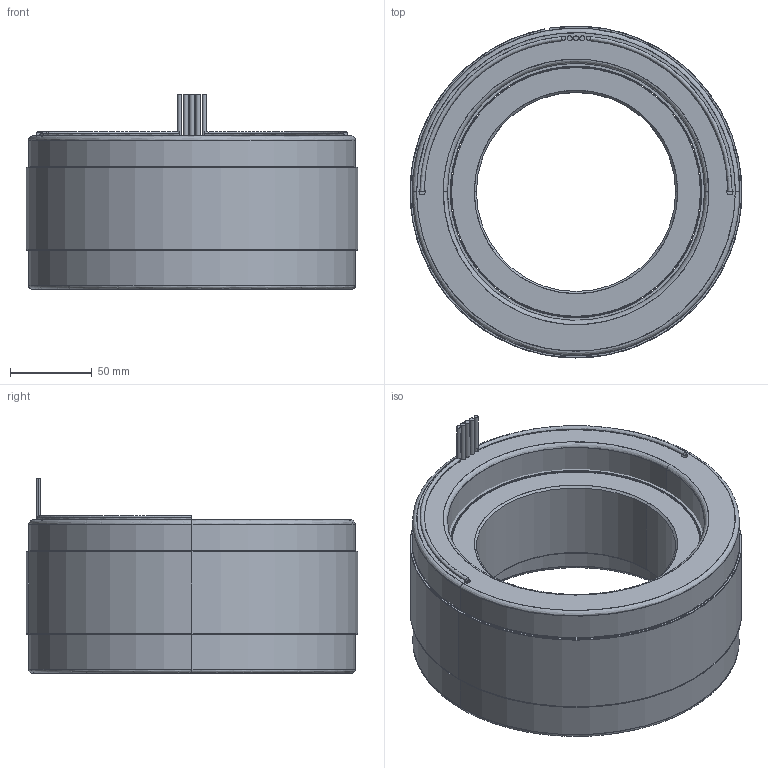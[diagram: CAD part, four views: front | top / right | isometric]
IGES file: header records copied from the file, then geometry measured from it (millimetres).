
Start section: SolidWorks IGES file using analytic representation for surfaces
Global section: file name: Z:\STANDARD STATOR ROTOR SETS\NEW DIRECT DRIVE MOTOR\8 OD 18S16P\6100337-02.IGS; native system: SolidWorks 2016; preprocessor: SolidWorks 2016; author: eng; date: 191023.160624; units: millimetre
Bounding box: 203.2 x 203.19 x 119.38 mm (x, y, z)
Surface area: 380407.4 mm2 (no closed solid volume)
Topology: 0 solids, 0 shells, 105 faces, 2710 edges, 2710 vertices
Faces by surface type: revolution 63, bspline 42
